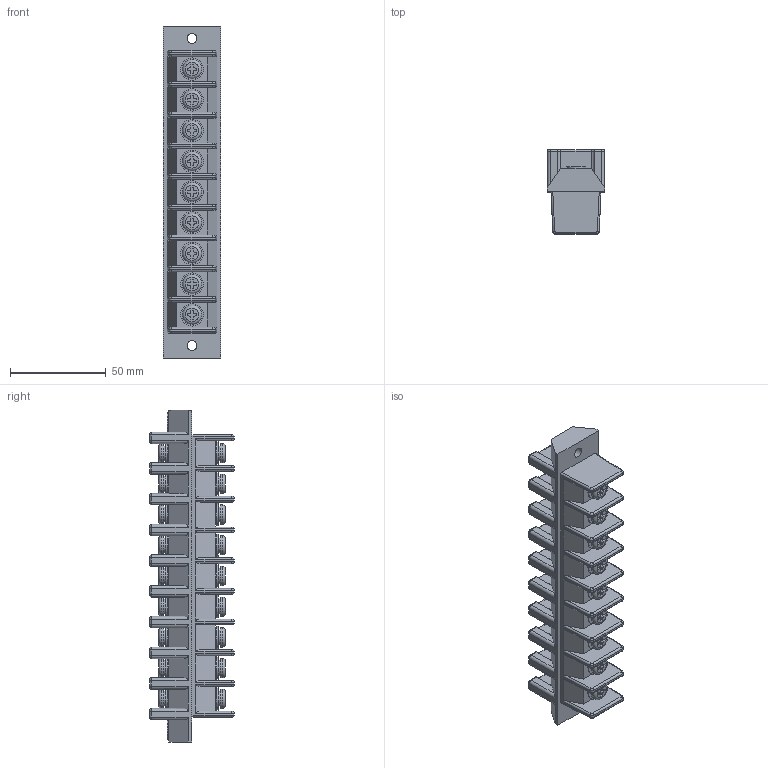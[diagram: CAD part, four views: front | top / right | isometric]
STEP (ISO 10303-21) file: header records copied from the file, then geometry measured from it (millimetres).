
FILE_DESCRIPTION(/* description */ ('Alibre Inc.'),/* implementation_level */ '2;1');
FILE_NAME(/* name */ 'export-DB43158D-FC2A-49B4-92FE-6434760DCCAA',/* time_stamp */ '2025-02-21T13:30:08+09:00',/* author */ (''),/* organization */ (''),/* preprocessor_version */ 'ST-DEVELOPER v17',/* originating_system */ 'Alibre',/* authorisation */ '');
FILE_SCHEMA (('CONFIG_CONTROL_DESIGN'));
Length unit declared in the file: millimetre
Bounding box: 30 x 44 x 173 mm (x, y, z)
Volume: 118451.7 mm3; surface area: 39990.6 mm2
Topology: 1 solids, 28 shells, 1174 faces, 2707 edges, 1682 vertices
Faces by surface type: plane 549, cylinder 451, torus 138, cone 36
Full cylindrical faces by diameter (mm): 4.4 x18, 4.6 x18, 5 x27, 5.2 x2, 8 x18, 9.9 x20, 10 x18, 11.7 x18
Entity records: 30954 total; most frequent: CARTESIAN_POINT 5656, ORIENTED_EDGE 4988, DIRECTION 4925, EDGE_CURVE 2494, AXIS2_PLACEMENT_3D 2090, VERTEX_POINT 1662, EDGE_LOOP 1500, FACE_BOUND 1500
